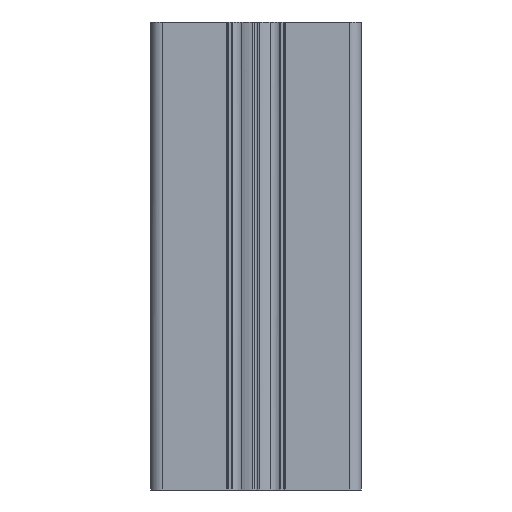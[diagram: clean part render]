
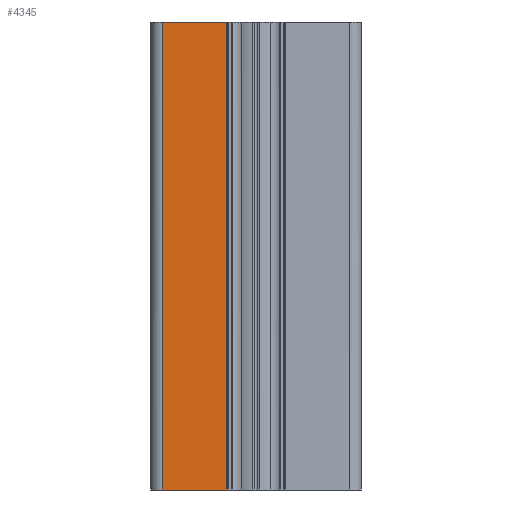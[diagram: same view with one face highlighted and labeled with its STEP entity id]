
A CAD part, front view. The second image highlights one B-rep face of the part: STEP entity #4345.
In plain terms, the highlighted free-form (B-spline) face has degree [1, 1] with [2, 2] control points.
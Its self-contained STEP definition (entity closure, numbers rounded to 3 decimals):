
#573 = EDGE_LOOP ( 'NONE', ( #733, #4392, #2772, #4907 ) ) ;
#630 = CARTESIAN_POINT ( 'NONE',  ( 3077.09, 1554.613, 0. ) ) ;
#721 = VERTEX_POINT ( 'NONE', #4516 ) ;
#733 = ORIENTED_EDGE ( 'NONE', *, *, #2185, .F. ) ;
#1278 = CARTESIAN_POINT ( 'NONE',  ( 3063.39, 1554.613, 0. ) ) ;
#1507 = CARTESIAN_POINT ( 'NONE',  ( 3063.39, 1554.613, 100. ) ) ;
#1554 = CARTESIAN_POINT ( 'NONE',  ( 3063.39, 1554.613, 100. ) ) ;
#1578 = VERTEX_POINT ( 'NONE', #3810 ) ;
#1746 = B_SPLINE_CURVE_WITH_KNOTS ( 'NONE', 1,
 ( #4842, #630 ),
 .UNSPECIFIED., .F., .F.,
 ( 2, 2 ),
 ( -1., 0. ),
 .UNSPECIFIED. ) ;
#2074 = CARTESIAN_POINT ( 'NONE',  ( 3063.39, 1554.613, 0. ) ) ;
#2093 = EDGE_CURVE ( 'NONE', #6696, #1578, #6066, .T. ) ;
#2132 = CARTESIAN_POINT ( 'NONE',  ( 3077.09, 1554.613, 100. ) ) ;
#2185 = EDGE_CURVE ( 'NONE', #5341, #721, #1746, .T. ) ;
#2498 = B_SPLINE_CURVE_WITH_KNOTS ( 'NONE', 1,
 ( #6077, #5604 ),
 .UNSPECIFIED., .F., .F.,
 ( 2, 2 ),
 ( 0., 1. ),
 .UNSPECIFIED. ) ;
#2772 = ORIENTED_EDGE ( 'NONE', *, *, #2093, .F. ) ;
#3573 = CARTESIAN_POINT ( 'NONE',  ( 3077.09, 1554.613, 0. ) ) ;
#3810 = CARTESIAN_POINT ( 'NONE',  ( 3063.39, 1554.613, 100. ) ) ;
#4224 = FACE_OUTER_BOUND ( 'NONE', #573, .T. ) ;
#4345 = ADVANCED_FACE ( 'NONE', ( #4224 ), #6247, .F. ) ;
#4392 = ORIENTED_EDGE ( 'NONE', *, *, #4750, .F. ) ;
#4516 = CARTESIAN_POINT ( 'NONE',  ( 3077.09, 1554.613, 0. ) ) ;
#4750 = EDGE_CURVE ( 'NONE', #1578, #5341, #6124, .T. ) ;
#4842 = CARTESIAN_POINT ( 'NONE',  ( 3077.09, 1554.613, 100. ) ) ;
#4907 = ORIENTED_EDGE ( 'NONE', *, *, #6467, .T. ) ;
#4991 = CARTESIAN_POINT ( 'NONE',  ( 3077.09, 1554.613, 100. ) ) ;
#5341 = VERTEX_POINT ( 'NONE', #4991 ) ;
#5404 = CARTESIAN_POINT ( 'NONE',  ( 3063.39, 1554.613, 100. ) ) ;
#5604 = CARTESIAN_POINT ( 'NONE',  ( 3077.09, 1554.613, 0. ) ) ;
#5793 = CARTESIAN_POINT ( 'NONE',  ( 3063.39, 1554.613, 0. ) ) ;
#6066 = B_SPLINE_CURVE_WITH_KNOTS ( 'NONE', 1,
 ( #2074, #5404 ),
 .UNSPECIFIED., .F., .F.,
 ( 2, 2 ),
 ( -1., 0. ),
 .UNSPECIFIED. ) ;
#6077 = CARTESIAN_POINT ( 'NONE',  ( 3063.39, 1554.613, 0. ) ) ;
#6124 = B_SPLINE_CURVE_WITH_KNOTS ( 'NONE', 1,
 ( #1554, #2132 ),
 .UNSPECIFIED., .F., .F.,
 ( 2, 2 ),
 ( 0., 1. ),
 .UNSPECIFIED. ) ;
#6247 = B_SPLINE_SURFACE_WITH_KNOTS ( 'NONE', 1, 1, ( 
 ( #5793, #3573 ),
 ( #1507, #6262 ) ),
 .UNSPECIFIED., .F., .F., .F.,
 ( 2, 2 ),
 ( 2, 2 ),
 ( 0., 1. ),
 ( 0., 1. ),
 .UNSPECIFIED. ) ;
#6262 = CARTESIAN_POINT ( 'NONE',  ( 3077.09, 1554.613, 100. ) ) ;
#6467 = EDGE_CURVE ( 'NONE', #6696, #721, #2498, .T. ) ;
#6696 = VERTEX_POINT ( 'NONE', #1278 ) ;
